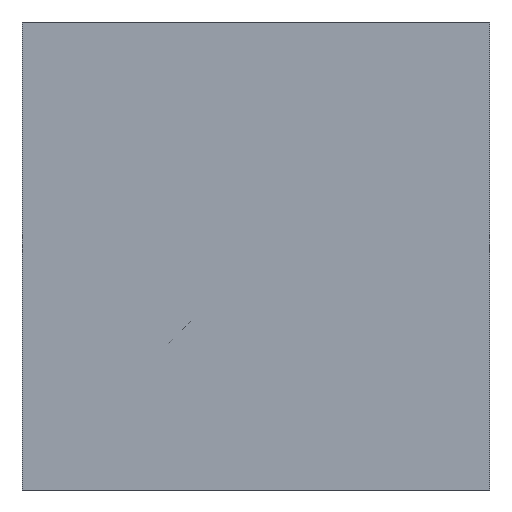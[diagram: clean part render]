
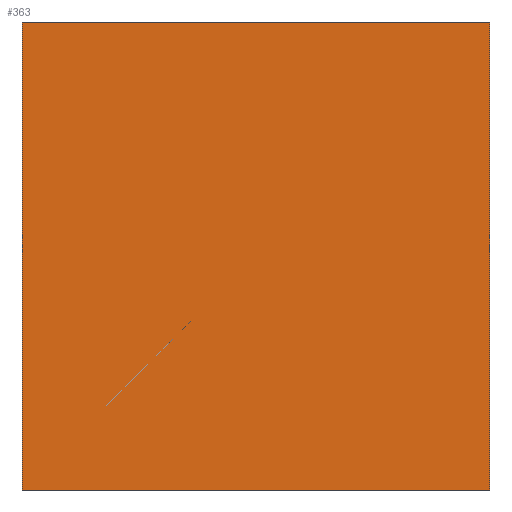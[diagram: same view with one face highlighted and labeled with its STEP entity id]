
A CAD part, front view. The second image highlights one B-rep face of the part: STEP entity #363.
In plain terms, the highlighted planar face has unit normal (0, -1, 0).
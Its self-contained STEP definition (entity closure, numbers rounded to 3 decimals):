
#29 = ORIENTED_EDGE ( 'NONE', *, *, #384, .T. ) ;
#31 = PLANE ( 'NONE',  #184 ) ;
#69 = CARTESIAN_POINT ( 'NONE',  ( -15., -40., -15. ) ) ;
#174 = EDGE_CURVE ( 'NONE', #735, #507, #395, .T. ) ;
#177 = CARTESIAN_POINT ( 'NONE',  ( 15., -40., 15. ) ) ;
#184 = AXIS2_PLACEMENT_3D ( 'NONE', #542, #218, #821 ) ;
#218 = DIRECTION ( 'NONE',  ( 0., 1., 0. ) ) ;
#249 = VERTEX_POINT ( 'NONE', #354 ) ;
#259 = VECTOR ( 'NONE', #594, 1000. ) ;
#315 = CARTESIAN_POINT ( 'NONE',  ( -15., -40., 15. ) ) ;
#348 = FACE_OUTER_BOUND ( 'NONE', #646, .T. ) ;
#354 = CARTESIAN_POINT ( 'NONE',  ( -15., -40., 15. ) ) ;
#362 = ORIENTED_EDGE ( 'NONE', *, *, #174, .F. ) ;
#363 = ADVANCED_FACE ( 'NONE', ( #348 ), #31, .F. ) ;
#366 = LINE ( 'NONE', #645, #259 ) ;
#371 = VERTEX_POINT ( 'NONE', #432 ) ;
#384 = EDGE_CURVE ( 'NONE', #371, #249, #366, .T. ) ;
#386 = LINE ( 'NONE', #315, #418 ) ;
#395 = LINE ( 'NONE', #843, #664 ) ;
#418 = VECTOR ( 'NONE', #574, 1000. ) ;
#421 = ORIENTED_EDGE ( 'NONE', *, *, #682, .T. ) ;
#432 = CARTESIAN_POINT ( 'NONE',  ( 15., -40., 15. ) ) ;
#488 = CARTESIAN_POINT ( 'NONE',  ( 15., -40., -15. ) ) ;
#507 = VERTEX_POINT ( 'NONE', #69 ) ;
#513 = ORIENTED_EDGE ( 'NONE', *, *, #835, .F. ) ;
#542 = CARTESIAN_POINT ( 'NONE',  ( 15., -40., 15. ) ) ;
#574 = DIRECTION ( 'NONE',  ( 0., 0., -1. ) ) ;
#594 = DIRECTION ( 'NONE',  ( -1., 0., 0. ) ) ;
#641 = DIRECTION ( 'NONE',  ( -1., 0., 0. ) ) ;
#645 = CARTESIAN_POINT ( 'NONE',  ( 15., -40., 15. ) ) ;
#646 = EDGE_LOOP ( 'NONE', ( #421, #362, #513, #29 ) ) ;
#664 = VECTOR ( 'NONE', #641, 1000. ) ;
#682 = EDGE_CURVE ( 'NONE', #249, #507, #386, .T. ) ;
#689 = DIRECTION ( 'NONE',  ( 0., 0., -1. ) ) ;
#694 = VECTOR ( 'NONE', #689, 1000. ) ;
#735 = VERTEX_POINT ( 'NONE', #488 ) ;
#821 = DIRECTION ( 'NONE',  ( 0., 0., 1. ) ) ;
#823 = LINE ( 'NONE', #177, #694 ) ;
#835 = EDGE_CURVE ( 'NONE', #371, #735, #823, .T. ) ;
#843 = CARTESIAN_POINT ( 'NONE',  ( 15., -40., -15. ) ) ;
